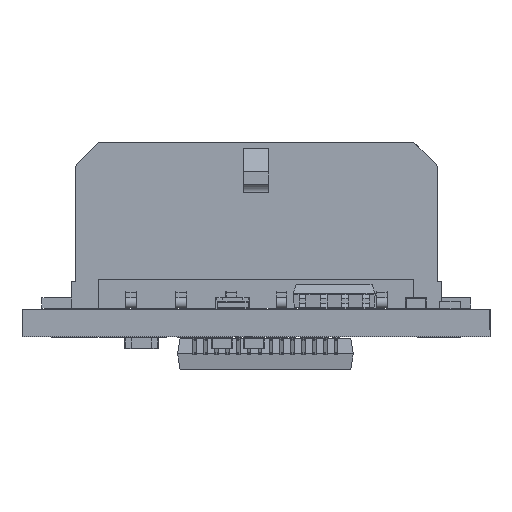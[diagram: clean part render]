
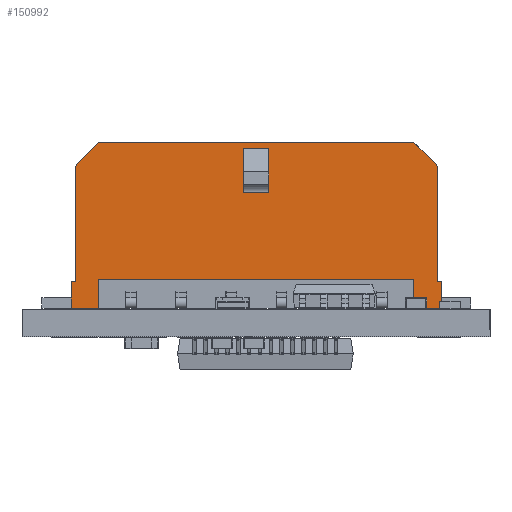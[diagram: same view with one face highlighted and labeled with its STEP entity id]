
A CAD part, left-side view. The second image highlights one B-rep face of the part: STEP entity #150992.
In plain terms, the highlighted planar face has unit normal (-1, 0, 0).
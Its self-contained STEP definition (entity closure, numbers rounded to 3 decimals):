
#4213 = LINE ( 'NONE', #71394, #127430 ) ;
#4794 = CARTESIAN_POINT ( 'NONE',  ( -3.445, -9.445, 9.95 ) ) ;
#5523 = ORIENTED_EDGE ( 'NONE', *, *, #34615, .T. ) ;
#5626 = VECTOR ( 'NONE', #94018, 1000. ) ;
#5890 = VERTEX_POINT ( 'NONE', #157131 ) ;
#6280 = DIRECTION ( 'NONE',  ( 0., 0., 1. ) ) ;
#7580 = CARTESIAN_POINT ( 'NONE',  ( -3.445, 11.055, 0.04 ) ) ;
#8704 = CARTESIAN_POINT ( 'NONE',  ( -3.445, -10.845, 0.04 ) ) ;
#9126 = CARTESIAN_POINT ( 'NONE',  ( -3.445, 9.405, 0.04 ) ) ;
#9635 = EDGE_CURVE ( 'NONE', #132810, #135731, #61305, .T. ) ;
#10249 = CARTESIAN_POINT ( 'NONE',  ( -3.445, -0.77, 6.95 ) ) ;
#13051 = DIRECTION ( 'NONE',  ( 0., 1., 0. ) ) ;
#14403 = DIRECTION ( 'NONE',  ( 0., 0., -1. ) ) ;
#16869 = CARTESIAN_POINT ( 'NONE',  ( -3.445, -10.845, 8.55 ) ) ;
#17020 = EDGE_CURVE ( 'NONE', #85768, #87733, #62286, .T. ) ;
#17162 = LINE ( 'NONE', #25495, #85194 ) ;
#18624 = LINE ( 'NONE', #148286, #29182 ) ;
#20926 = EDGE_CURVE ( 'NONE', #68192, #84556, #125912, .T. ) ;
#22773 = EDGE_CURVE ( 'NONE', #54438, #135731, #110308, .T. ) ;
#23184 = CARTESIAN_POINT ( 'NONE',  ( -3.445, -10.845, 1.64 ) ) ;
#23472 = CARTESIAN_POINT ( 'NONE',  ( -3.445, -0.77, 9.6 ) ) ;
#25495 = CARTESIAN_POINT ( 'NONE',  ( -3.445, -0.77, 9.6 ) ) ;
#27198 = LINE ( 'NONE', #71759, #76206 ) ;
#28565 = DIRECTION ( 'NONE',  ( 0., 1., 0. ) ) ;
#28971 = LINE ( 'NONE', #23184, #50247 ) ;
#29113 = VECTOR ( 'NONE', #105804, 1000. ) ;
#29182 = VECTOR ( 'NONE', #53181, 1000. ) ;
#32467 = LINE ( 'NONE', #66426, #128119 ) ;
#33482 = CARTESIAN_POINT ( 'NONE',  ( -3.445, 9.405, 1.79 ) ) ;
#33547 = ORIENTED_EDGE ( 'NONE', *, *, #113970, .T. ) ;
#34498 = VECTOR ( 'NONE', #123711, 1000. ) ;
#34615 = EDGE_CURVE ( 'NONE', #87364, #95999, #75481, .T. ) ;
#35607 = VERTEX_POINT ( 'NONE', #16869 ) ;
#36737 = LINE ( 'NONE', #86944, #34498 ) ;
#38033 = DIRECTION ( 'NONE',  ( 0., -1., 0. ) ) ;
#41677 = LINE ( 'NONE', #147506, #5626 ) ;
#44023 = FACE_BOUND ( 'NONE', #173987, .T. ) ;
#46038 = CARTESIAN_POINT ( 'NONE',  ( -3.445, 11.055, 0.04 ) ) ;
#46856 = DIRECTION ( 'NONE',  ( 0., -0.707, -0.707 ) ) ;
#50247 = VECTOR ( 'NONE', #38033, 1000. ) ;
#50326 = DIRECTION ( 'NONE',  ( 0., 1., 0. ) ) ;
#50454 = AXIS2_PLACEMENT_3D ( 'NONE', #8704, #75825, #129814 ) ;
#53181 = DIRECTION ( 'NONE',  ( 0., -1., 0. ) ) ;
#54438 = VERTEX_POINT ( 'NONE', #63398 ) ;
#60487 = VECTOR ( 'NONE', #6280, 1000. ) ;
#61305 = LINE ( 'NONE', #101764, #69871 ) ;
#61476 = EDGE_CURVE ( 'NONE', #147176, #77547, #18624, .T. ) ;
#62099 = PLANE ( 'NONE',  #50454 ) ;
#62286 = LINE ( 'NONE', #156900, #140941 ) ;
#62386 = DIRECTION ( 'NONE',  ( 0., 0., 1. ) ) ;
#63398 = CARTESIAN_POINT ( 'NONE',  ( -3.445, -9.445, 9.95 ) ) ;
#64052 = CARTESIAN_POINT ( 'NONE',  ( -3.445, -0.77, 6.95 ) ) ;
#64224 = ORIENTED_EDGE ( 'NONE', *, *, #94758, .F. ) ;
#65347 = EDGE_CURVE ( 'NONE', #140720, #35607, #41677, .T. ) ;
#66245 = ORIENTED_EDGE ( 'NONE', *, *, #9635, .F. ) ;
#66426 = CARTESIAN_POINT ( 'NONE',  ( -3.445, 10.805, 1.64 ) ) ;
#66437 = VECTOR ( 'NONE', #71724, 1000. ) ;
#66655 = LINE ( 'NONE', #4794, #153758 ) ;
#68192 = VERTEX_POINT ( 'NONE', #7580 ) ;
#69528 = EDGE_CURVE ( 'NONE', #147176, #5890, #124234, .T. ) ;
#69871 = VECTOR ( 'NONE', #129071, 1000. ) ;
#70147 = CARTESIAN_POINT ( 'NONE',  ( -3.445, 11.055, 1.64 ) ) ;
#71072 = ORIENTED_EDGE ( 'NONE', *, *, #120580, .F. ) ;
#71394 = CARTESIAN_POINT ( 'NONE',  ( -3.445, -9.445, 1.79 ) ) ;
#71724 = DIRECTION ( 'NONE',  ( 0., 0., 1. ) ) ;
#71759 = CARTESIAN_POINT ( 'NONE',  ( -3.445, 11.055, 0.04 ) ) ;
#72070 = VECTOR ( 'NONE', #50326, 1000. ) ;
#75481 = LINE ( 'NONE', #119439, #168943 ) ;
#75825 = DIRECTION ( 'NONE',  ( -1., 0., 0. ) ) ;
#76206 = VECTOR ( 'NONE', #112041, 1000. ) ;
#76576 = CARTESIAN_POINT ( 'NONE',  ( -3.445, 0.73, 9.6 ) ) ;
#76937 = EDGE_CURVE ( 'NONE', #5890, #87733, #4213, .T. ) ;
#77547 = VERTEX_POINT ( 'NONE', #121671 ) ;
#84556 = VERTEX_POINT ( 'NONE', #70147 ) ;
#85194 = VECTOR ( 'NONE', #13051, 1000. ) ;
#85768 = VERTEX_POINT ( 'NONE', #9126 ) ;
#85974 = ORIENTED_EDGE ( 'NONE', *, *, #69528, .F. ) ;
#86944 = CARTESIAN_POINT ( 'NONE',  ( -3.445, 10.805, 1.64 ) ) ;
#87364 = VERTEX_POINT ( 'NONE', #23472 ) ;
#87646 = CARTESIAN_POINT ( 'NONE',  ( -3.445, -9.445, 0.04 ) ) ;
#87733 = VERTEX_POINT ( 'NONE', #33482 ) ;
#89067 = EDGE_LOOP ( 'NONE', ( #156058, #71072, #143816, #116763, #103637, #117707, #66245, #64224, #175354, #132015, #33547, #92522, #141026, #85974 ) ) ;
#89917 = VERTEX_POINT ( 'NONE', #91876 ) ;
#91215 = ORIENTED_EDGE ( 'NONE', *, *, #145783, .F. ) ;
#91876 = CARTESIAN_POINT ( 'NONE',  ( -3.445, -11.095, 1.64 ) ) ;
#92522 = ORIENTED_EDGE ( 'NONE', *, *, #17020, .T. ) ;
#94018 = DIRECTION ( 'NONE',  ( 0., 0., 1. ) ) ;
#94758 = EDGE_CURVE ( 'NONE', #111250, #132810, #36737, .T. ) ;
#95999 = VERTEX_POINT ( 'NONE', #64052 ) ;
#98323 = VECTOR ( 'NONE', #14403, 1000. ) ;
#99670 = VECTOR ( 'NONE', #107500, 1000. ) ;
#101764 = CARTESIAN_POINT ( 'NONE',  ( -3.445, 10.805, 8.55 ) ) ;
#103637 = ORIENTED_EDGE ( 'NONE', *, *, #117330, .F. ) ;
#104829 = CARTESIAN_POINT ( 'NONE',  ( -3.445, -10.845, 1.64 ) ) ;
#105804 = DIRECTION ( 'NONE',  ( 0., 1., 0. ) ) ;
#107347 = VERTEX_POINT ( 'NONE', #76576 ) ;
#107500 = DIRECTION ( 'NONE',  ( 0., 0., -1. ) ) ;
#109286 = DIRECTION ( 'NONE',  ( 0., 0., -1. ) ) ;
#110308 = LINE ( 'NONE', #158552, #72070 ) ;
#111250 = VERTEX_POINT ( 'NONE', #127945 ) ;
#112041 = DIRECTION ( 'NONE',  ( 0., -1., 0. ) ) ;
#113970 = EDGE_CURVE ( 'NONE', #68192, #85768, #27198, .T. ) ;
#116763 = ORIENTED_EDGE ( 'NONE', *, *, #65347, .T. ) ;
#117330 = EDGE_CURVE ( 'NONE', #54438, #35607, #66655, .T. ) ;
#117455 = EDGE_CURVE ( 'NONE', #111250, #84556, #32467, .T. ) ;
#117707 = ORIENTED_EDGE ( 'NONE', *, *, #22773, .T. ) ;
#119439 = CARTESIAN_POINT ( 'NONE',  ( -3.445, -0.77, 9.6 ) ) ;
#119466 = EDGE_CURVE ( 'NONE', #95999, #153055, #154601, .T. ) ;
#120464 = DIRECTION ( 'NONE',  ( 0., 1., 0. ) ) ;
#120580 = EDGE_CURVE ( 'NONE', #89917, #77547, #163383, .T. ) ;
#121671 = CARTESIAN_POINT ( 'NONE',  ( -3.445, -11.095, 0.04 ) ) ;
#121766 = CARTESIAN_POINT ( 'NONE',  ( -3.445, 0.73, 6.95 ) ) ;
#121812 = CARTESIAN_POINT ( 'NONE',  ( -3.445, 10.805, 8.55 ) ) ;
#123711 = DIRECTION ( 'NONE',  ( 0., 0., 1. ) ) ;
#124234 = LINE ( 'NONE', #87646, #60487 ) ;
#125912 = LINE ( 'NONE', #46038, #66437 ) ;
#127326 = EDGE_CURVE ( 'NONE', #140720, #89917, #28971, .T. ) ;
#127430 = VECTOR ( 'NONE', #28565, 1000. ) ;
#127945 = CARTESIAN_POINT ( 'NONE',  ( -3.445, 10.805, 1.64 ) ) ;
#128119 = VECTOR ( 'NONE', #120464, 1000. ) ;
#129071 = DIRECTION ( 'NONE',  ( 0., -0.707, 0.707 ) ) ;
#129814 = DIRECTION ( 'NONE',  ( 0., 0., 1. ) ) ;
#132015 = ORIENTED_EDGE ( 'NONE', *, *, #20926, .F. ) ;
#132810 = VERTEX_POINT ( 'NONE', #121812 ) ;
#133417 = FACE_OUTER_BOUND ( 'NONE', #89067, .T. ) ;
#135017 = CARTESIAN_POINT ( 'NONE',  ( -3.445, 0.73, 9.6 ) ) ;
#135731 = VERTEX_POINT ( 'NONE', #149655 ) ;
#136625 = CARTESIAN_POINT ( 'NONE',  ( -3.445, -11.095, 1.64 ) ) ;
#138822 = LINE ( 'NONE', #135017, #98323 ) ;
#139448 = ORIENTED_EDGE ( 'NONE', *, *, #172120, .F. ) ;
#140720 = VERTEX_POINT ( 'NONE', #104829 ) ;
#140941 = VECTOR ( 'NONE', #62386, 1000. ) ;
#141026 = ORIENTED_EDGE ( 'NONE', *, *, #76937, .F. ) ;
#143816 = ORIENTED_EDGE ( 'NONE', *, *, #127326, .F. ) ;
#144194 = CARTESIAN_POINT ( 'NONE',  ( -3.445, -9.445, 0.04 ) ) ;
#145783 = EDGE_CURVE ( 'NONE', #87364, #107347, #17162, .T. ) ;
#147176 = VERTEX_POINT ( 'NONE', #144194 ) ;
#147506 = CARTESIAN_POINT ( 'NONE',  ( -3.445, -10.845, 1.64 ) ) ;
#148286 = CARTESIAN_POINT ( 'NONE',  ( -3.445, -9.445, 0.04 ) ) ;
#149655 = CARTESIAN_POINT ( 'NONE',  ( -3.445, 9.405, 9.95 ) ) ;
#150992 = ADVANCED_FACE ( 'NONE', ( #133417, #44023 ), #62099, .T. ) ;
#153055 = VERTEX_POINT ( 'NONE', #121766 ) ;
#153758 = VECTOR ( 'NONE', #46856, 1000. ) ;
#154601 = LINE ( 'NONE', #10249, #29113 ) ;
#156058 = ORIENTED_EDGE ( 'NONE', *, *, #61476, .T. ) ;
#156900 = CARTESIAN_POINT ( 'NONE',  ( -3.445, 9.405, 0.04 ) ) ;
#157131 = CARTESIAN_POINT ( 'NONE',  ( -3.445, -9.445, 1.79 ) ) ;
#158552 = CARTESIAN_POINT ( 'NONE',  ( -3.445, -9.445, 9.95 ) ) ;
#163383 = LINE ( 'NONE', #136625, #99670 ) ;
#165698 = ORIENTED_EDGE ( 'NONE', *, *, #119466, .T. ) ;
#168943 = VECTOR ( 'NONE', #109286, 1000. ) ;
#172120 = EDGE_CURVE ( 'NONE', #107347, #153055, #138822, .T. ) ;
#173987 = EDGE_LOOP ( 'NONE', ( #165698, #139448, #91215, #5523 ) ) ;
#175354 = ORIENTED_EDGE ( 'NONE', *, *, #117455, .T. ) ;
